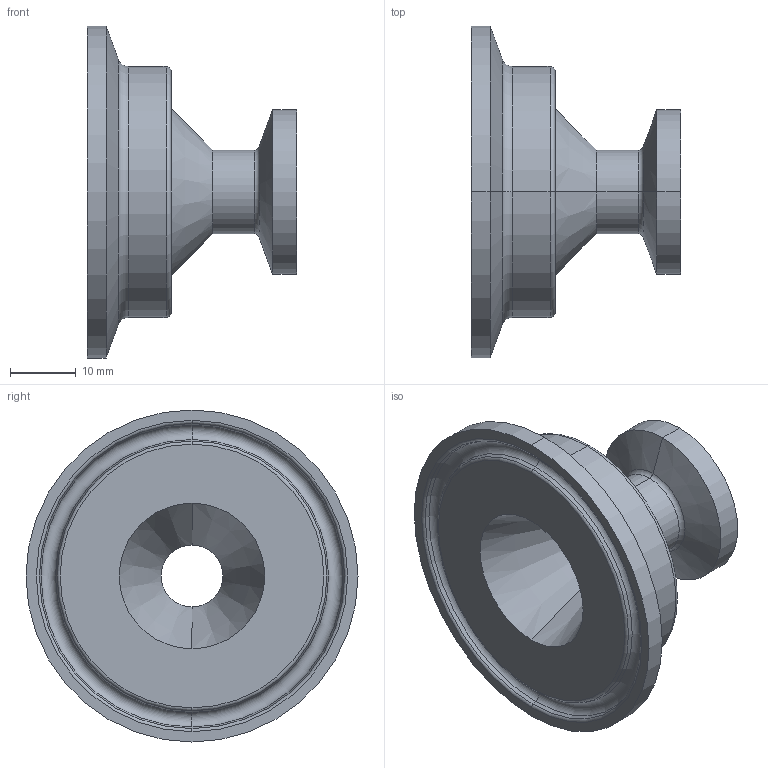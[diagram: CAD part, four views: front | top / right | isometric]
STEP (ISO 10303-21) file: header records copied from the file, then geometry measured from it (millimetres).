
FILE_DESCRIPTION (( 'STEP AP214' ), '1' );
FILE_NAME ('TEG31I6L 1.0X.50 REV1.STEP', '2025-06-26T15:42:51', ( '' ), ( '' ), 'SwSTEP 2.0', 'SolidWorks 2022', '' );
FILE_SCHEMA (( 'AUTOMOTIVE_DESIGN' ));
Length unit declared in the file: inch
Products named in the file (1): TEG31I6L 1.0X.50 REV1
Bounding box: 31.75 x 50.39 x 50.39 mm (x, y, z)
Volume: 17793.7 mm3; surface area: 7996.6 mm2
Topology: 1 solids, 1 shells, 49 faces, 98 edges, 54 vertices
Faces by surface type: torus 18, cone 14, cylinder 12, plane 5
Entity records: 1316 total; most frequent: DIRECTION 270, CARTESIAN_POINT 202, ORIENTED_EDGE 196, AXIS2_PLACEMENT_3D 122, EDGE_CURVE 98, CIRCLE 72, EDGE_LOOP 54, VERTEX_POINT 54
